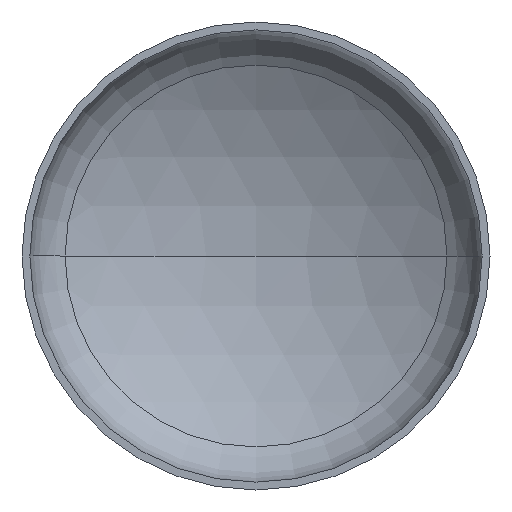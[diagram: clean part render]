
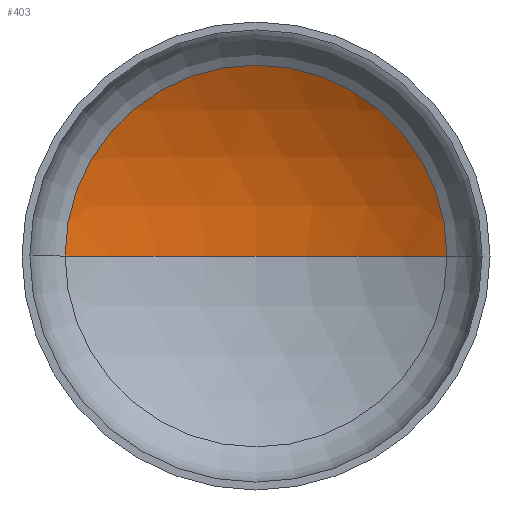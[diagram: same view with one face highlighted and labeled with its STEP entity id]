
A CAD part, front view. The second image highlights one B-rep face of the part: STEP entity #403.
In plain terms, the highlighted spherical face has radius 2240 mm.
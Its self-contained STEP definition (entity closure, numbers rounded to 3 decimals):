
#31 = ORIENTED_EDGE ( 'NONE', *, *, #81, .T. ) ;
#42 = AXIS2_PLACEMENT_3D ( 'NONE', #139, #333, #169 ) ;
#43 = AXIS2_PLACEMENT_3D ( 'NONE', #187, #190, #158 ) ;
#46 = AXIS2_PLACEMENT_3D ( 'NONE', #273, #206, #198 ) ;
#80 = EDGE_CURVE ( 'NONE', #393, #322, #349, .T. ) ;
#81 = EDGE_CURVE ( 'NONE', #400, #393, #204, .T. ) ;
#84 = EDGE_CURVE ( 'NONE', #400, #322, #271, .T. ) ;
#97 = ORIENTED_EDGE ( 'NONE', *, *, #80, .T. ) ;
#139 = CARTESIAN_POINT ( 'NONE',  ( 0., -1406.975, 0. ) ) ;
#158 = DIRECTION ( 'NONE',  ( -1., 0., 0. ) ) ;
#169 = DIRECTION ( 'NONE',  ( 1., 0., 0. ) ) ;
#173 = DIRECTION ( 'NONE',  ( -1., 0., 0. ) ) ;
#175 = CARTESIAN_POINT ( 'NONE',  ( 0., 833.025, 0. ) ) ;
#187 = CARTESIAN_POINT ( 'NONE',  ( 0., -1406.975, 0. ) ) ;
#190 = DIRECTION ( 'NONE',  ( 0., 0., -1. ) ) ;
#198 = DIRECTION ( 'NONE',  ( 1., 0., 0. ) ) ;
#204 = CIRCLE ( 'NONE', #43, 2240. ) ;
#206 = DIRECTION ( 'NONE',  ( 0., -1., 0. ) ) ;
#224 = AXIS2_PLACEMENT_3D ( 'NONE', #362, #256, #173 ) ;
#256 = DIRECTION ( 'NONE',  ( 0., 0., -1. ) ) ;
#271 = CIRCLE ( 'NONE', #42, 2240. ) ;
#273 = CARTESIAN_POINT ( 'NONE',  ( 0., 519.889, 0. ) ) ;
#322 = VERTEX_POINT ( 'NONE', #398 ) ;
#333 = DIRECTION ( 'NONE',  ( 0., 0., 1. ) ) ;
#343 = CARTESIAN_POINT ( 'NONE',  ( 1142.276, 519.889, 0. ) ) ;
#349 = CIRCLE ( 'NONE', #46, 1142.276 ) ;
#352 = SPHERICAL_SURFACE ( 'NONE', #224, 2240. ) ;
#362 = CARTESIAN_POINT ( 'NONE',  ( 0., -1406.975, 0. ) ) ;
#375 = ORIENTED_EDGE ( 'NONE', *, *, #84, .F. ) ;
#380 = EDGE_LOOP ( 'NONE', ( #375, #31, #97 ) ) ;
#393 = VERTEX_POINT ( 'NONE', #343 ) ;
#398 = CARTESIAN_POINT ( 'NONE',  ( -1142.276, 519.889, 0. ) ) ;
#400 = VERTEX_POINT ( 'NONE', #175 ) ;
#403 = ADVANCED_FACE ( 'NONE', ( #404 ), #352, .F. ) ;
#404 = FACE_OUTER_BOUND ( 'NONE', #380, .T. ) ;
